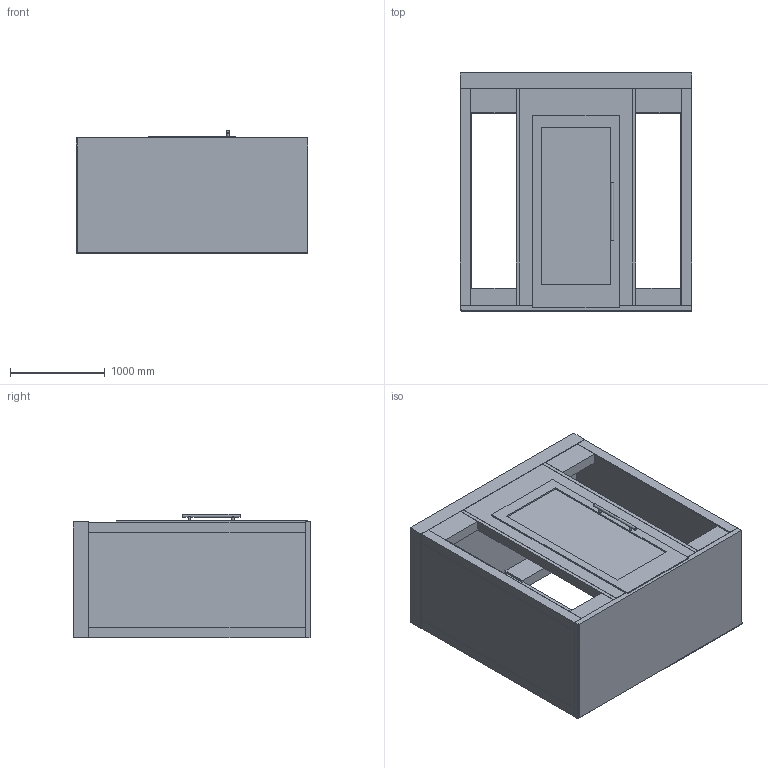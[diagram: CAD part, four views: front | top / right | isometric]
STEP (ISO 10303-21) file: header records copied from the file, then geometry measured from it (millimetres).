
FILE_DESCRIPTION(/* description */ (''),/* implementation_level */ '2;1');
FILE_NAME(/* name */ 'C:\Users\CLy\Desktop\DESKTOP\ZONEZ STEP\FZC-W.stp',/* time_stamp */ '2021-03-12T15:16:23-08:00',/* author */ ('CLy'),/* organization */ (''),/* preprocessor_version */ 'ST-DEVELOPER v18',/* originating_system */ 'Autodesk Inventor 2020',/* authorisation */ '');
FILE_SCHEMA (('AUTOMOTIVE_DESIGN { 1 0 10303 214 3 1 1 }'));
Length unit declared in the file: inch
Products named in the file (1): FZC-W
Bounding box: 2438.4 x 2504.82 x 1300.49 mm (x, y, z)
Volume: 1812150488.1 mm3; surface area: 34584008.6 mm2
Topology: 3 solids, 3 shells, 125 faces, 357 edges, 238 vertices
Faces by surface type: plane 107, torus 8, cylinder 6, bspline 4
Full cylindrical faces by diameter (mm): 25.4 x4, 31.75 x2
Entity records: 5062 total; most frequent: CARTESIAN_POINT 1671, ORIENTED_EDGE 714, DIRECTION 625, EDGE_CURVE 357, LINE 309, VECTOR 309, VERTEX_POINT 238, AXIS2_PLACEMENT_3D 158
